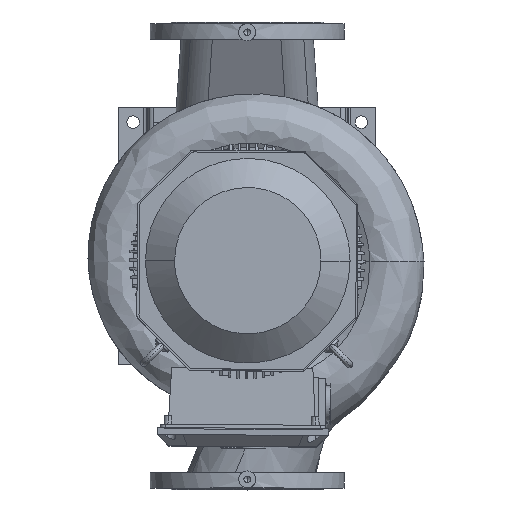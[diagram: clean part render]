
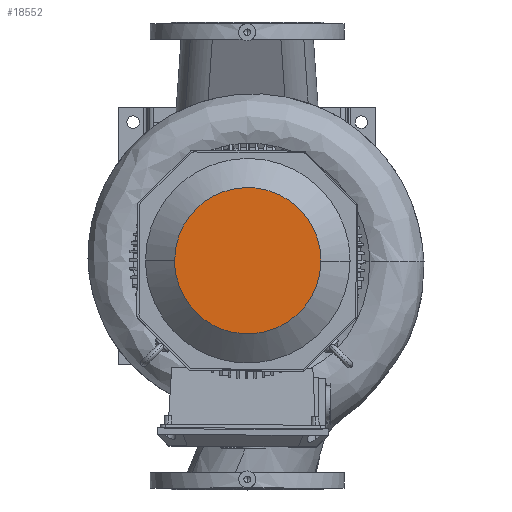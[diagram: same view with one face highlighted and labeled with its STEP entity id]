
A CAD part, top view. The second image highlights one B-rep face of the part: STEP entity #18552.
In plain terms, the highlighted free-form (B-spline) face has degree [1, 1] with [2, 2] control points.
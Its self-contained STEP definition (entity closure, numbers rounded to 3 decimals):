
#18552=ADVANCED_FACE('     F36',(#36039),#36040,.T.);
#18634=EDGE_CURVE('     E99',#36165,#36166,#36167,.T.);
#18638=EDGE_CURVE('     E99',#36166,#36165,#36171,.T.);
#36039=FACE_OUTER_BOUND('',#88202,.T.);
#36040=B_SPLINE_SURFACE_WITH_KNOTS('',1,1,((#88203,#88204),(#88205,#88206)),.UNSPECIFIED.,.F.,.F.,.F.,(2,2),(2,2),(0.044,0.955),(0.039,0.96),.UNSPECIFIED.);
#36165=VERTEX_POINT('',#88647);
#36166=VERTEX_POINT('',#88648);
#36167=(B_SPLINE_CURVE(2,(#88650,#88651,#88652,#88653,#88654),.UNSPECIFIED.,.F.,.F.)B_SPLINE_CURVE_WITH_KNOTS((3,2,3),(64.683,86.244,129.365),.UNSPECIFIED.)RATIONAL_B_SPLINE_CURVE((0.75,0.75,1.0,0.5,1.0))BOUNDED_CURVE()REPRESENTATION_ITEM('')GEOMETRIC_REPRESENTATION_ITEM()CURVE());
#36171=(B_SPLINE_CURVE(2,(#88668,#88669,#88670,#88671,#88672),.UNSPECIFIED.,.F.,.F.)B_SPLINE_CURVE_WITH_KNOTS((3,2,3),(0.0,43.122,64.683),.UNSPECIFIED.)RATIONAL_B_SPLINE_CURVE((1.0,0.5,1.0,0.75,0.75))BOUNDED_CURVE()REPRESENTATION_ITEM('')GEOMETRIC_REPRESENTATION_ITEM()CURVE());
#88202=EDGE_LOOP('',(#104484,#104485));
#88203=CARTESIAN_POINT('',(-269.045,153.272,-215.6));
#88204=CARTESIAN_POINT('',(-269.045,-103.789,-215.6));
#88205=CARTESIAN_POINT('',(-12.172,153.272,-215.6));
#88206=CARTESIAN_POINT('',(-12.172,-103.789,-215.6));
#88647=CARTESIAN_POINT('',(-268.613,24.546,-215.6));
#88648=CARTESIAN_POINT('',(-12.181,24.546,-215.6));
#88650=CARTESIAN_POINT('',(-268.613,24.546,-215.6));
#88651=CARTESIAN_POINT('',(-268.613,-49.479,-215.6));
#88652=CARTESIAN_POINT('',(-204.505,-86.492,-215.6));
#88653=CARTESIAN_POINT('',(-12.181,-197.531,-215.6));
#88654=CARTESIAN_POINT('',(-12.181,24.546,-215.6));
#88668=CARTESIAN_POINT('',(-12.181,24.546,-215.6));
#88669=CARTESIAN_POINT('',(-12.181,246.623,-215.6));
#88670=CARTESIAN_POINT('',(-204.505,135.585,-215.6));
#88671=CARTESIAN_POINT('',(-268.613,98.572,-215.6));
#88672=CARTESIAN_POINT('',(-268.613,24.546,-215.6));
#104484=ORIENTED_EDGE('',*,*,#18638,.F.);
#104485=ORIENTED_EDGE('',*,*,#18634,.F.);
